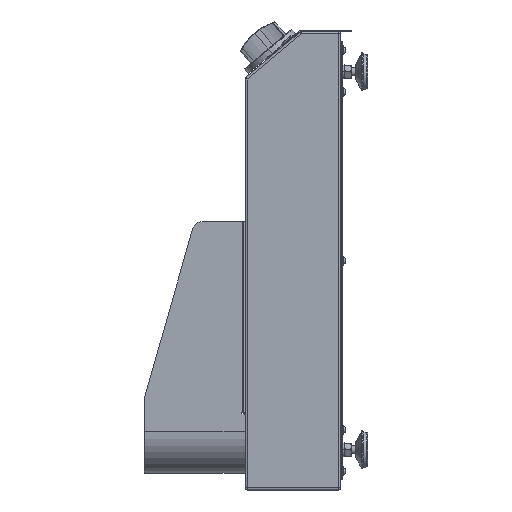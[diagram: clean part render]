
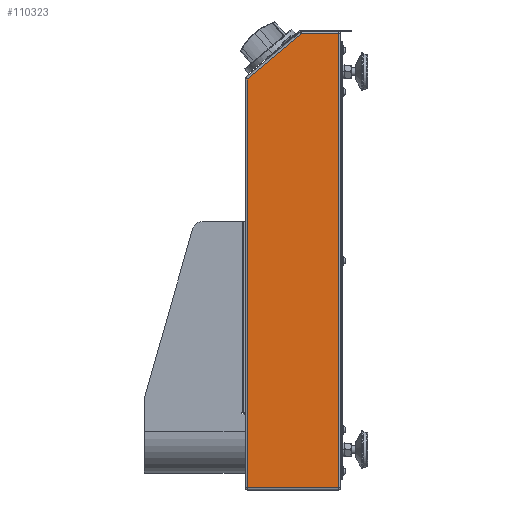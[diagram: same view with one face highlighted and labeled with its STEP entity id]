
A CAD part, left-side view. The second image highlights one B-rep face of the part: STEP entity #110323.
In plain terms, the highlighted planar face has unit normal (-1, 0, 0).
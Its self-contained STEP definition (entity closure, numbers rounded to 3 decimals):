
#1001 = CARTESIAN_POINT ( 'NONE',  ( -600., 39.272, -2. ) ) ;
#1720 = ORIENTED_EDGE ( 'NONE', *, *, #97248, .T. ) ;
#5274 = CARTESIAN_POINT ( 'NONE',  ( -600., 93., -2. ) ) ;
#7181 = CARTESIAN_POINT ( 'NONE',  ( -600., 2., -2. ) ) ;
#12283 = DIRECTION ( 'NONE',  ( 0., 0.766, -0.643 ) ) ;
#13881 = DIRECTION ( 'NONE',  ( 0., -1., 0. ) ) ;
#14276 = LINE ( 'NONE', #7181, #97558 ) ;
#17558 = FACE_OUTER_BOUND ( 'NONE', #70686, .T. ) ;
#19956 = CARTESIAN_POINT ( 'NONE',  ( -600., 39.272, -2. ) ) ;
#21758 = CARTESIAN_POINT ( 'NONE',  ( -600., 2., -453. ) ) ;
#31835 = DIRECTION ( 'NONE',  ( 0., 0., -1. ) ) ;
#40355 = CARTESIAN_POINT ( 'NONE',  ( -600., 93., -453. ) ) ;
#44172 = VECTOR ( 'NONE', #69907, 1000. ) ;
#49557 = LINE ( 'NONE', #5274, #79205 ) ;
#54367 = AXIS2_PLACEMENT_3D ( 'NONE', #1001, #108434, #99575 ) ;
#61620 = CARTESIAN_POINT ( 'NONE',  ( -600., 39.272, -2. ) ) ;
#62420 = PLANE ( 'NONE',  #54367 ) ;
#65711 = EDGE_CURVE ( 'NONE', #72751, #73428, #110707, .T. ) ;
#69907 = DIRECTION ( 'NONE',  ( 0., 1., 0. ) ) ;
#70491 = LINE ( 'NONE', #61620, #44172 ) ;
#70686 = EDGE_LOOP ( 'NONE', ( #99404, #93531, #96068, #1720, #104720 ) ) ;
#72751 = VERTEX_POINT ( 'NONE', #40355 ) ;
#73428 = VERTEX_POINT ( 'NONE', #21758 ) ;
#79205 = VECTOR ( 'NONE', #31835, 1000. ) ;
#84080 = VERTEX_POINT ( 'NONE', #97403 ) ;
#84808 = VECTOR ( 'NONE', #13881, 1000. ) ;
#85313 = CARTESIAN_POINT ( 'NONE',  ( -600., 39.272, -453. ) ) ;
#89074 = LINE ( 'NONE', #19956, #109628 ) ;
#93200 = VERTEX_POINT ( 'NONE', #95035 ) ;
#93398 = EDGE_CURVE ( 'NONE', #110702, #84080, #89074, .T. ) ;
#93531 = ORIENTED_EDGE ( 'NONE', *, *, #65711, .T. ) ;
#95035 = CARTESIAN_POINT ( 'NONE',  ( -600., 2., -2. ) ) ;
#96068 = ORIENTED_EDGE ( 'NONE', *, *, #103699, .T. ) ;
#97248 = EDGE_CURVE ( 'NONE', #93200, #110702, #70491, .T. ) ;
#97403 = CARTESIAN_POINT ( 'NONE',  ( -600., 93., -47.083 ) ) ;
#97558 = VECTOR ( 'NONE', #114032, 1000. ) ;
#99404 = ORIENTED_EDGE ( 'NONE', *, *, #112590, .T. ) ;
#99575 = DIRECTION ( 'NONE',  ( 0., 0., 1. ) ) ;
#103699 = EDGE_CURVE ( 'NONE', #73428, #93200, #14276, .T. ) ;
#104720 = ORIENTED_EDGE ( 'NONE', *, *, #93398, .T. ) ;
#107142 = CARTESIAN_POINT ( 'NONE',  ( -600., 39.272, -2. ) ) ;
#108434 = DIRECTION ( 'NONE',  ( -1., 0., 0. ) ) ;
#109628 = VECTOR ( 'NONE', #12283, 1000. ) ;
#110323 = ADVANCED_FACE ( 'NONE', ( #17558 ), #62420, .T. ) ;
#110702 = VERTEX_POINT ( 'NONE', #107142 ) ;
#110707 = LINE ( 'NONE', #85313, #84808 ) ;
#112590 = EDGE_CURVE ( 'NONE', #84080, #72751, #49557, .T. ) ;
#114032 = DIRECTION ( 'NONE',  ( 0., 0., 1. ) ) ;
